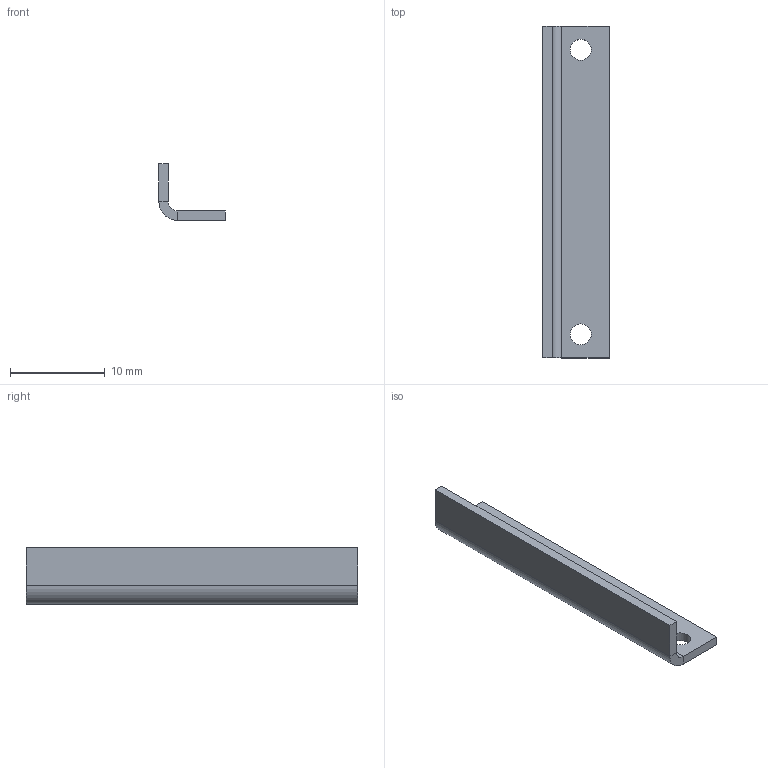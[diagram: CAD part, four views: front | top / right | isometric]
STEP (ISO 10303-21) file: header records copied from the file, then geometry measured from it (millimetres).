
FILE_DESCRIPTION(/* description */ (''),/* implementation_level */ '2;1');
FILE_NAME(/* name */ 'PDB-03-302_PCB_Retaining_Bracket_R01.step',/* time_stamp */ '2026-11-24T01:50:39+05:00',/* author */ (''),/* organization */ (''),/* preprocessor_version */ 'ST-DEVELOPER v20.2',/* originating_system */ 'Autodesk Translation Framework v15.17.0.0',/* authorisation */ '');
FILE_SCHEMA (('AUTOMOTIVE_DESIGN { 1 0 10303 214 3 1 1 }'));
Length unit declared in the file: centimetre
Products named in the file (1): 2026-11-24-01-50-39-239
Bounding box: 7 x 35 x 6 mm (x, y, z)
Volume: 389.9 mm3; surface area: 886.3 mm2
Topology: 1 solids, 1 shells, 16 faces, 34 edges, 20 vertices
Faces by surface type: plane 12, cylinder 4
Full cylindrical faces by diameter (mm): 2.2 x2
Entity records: 463 total; most frequent: DIRECTION 76, CARTESIAN_POINT 71, ORIENTED_EDGE 68, EDGE_CURVE 34, LINE 26, VECTOR 26, AXIS2_PLACEMENT_3D 25, EDGE_LOOP 20
